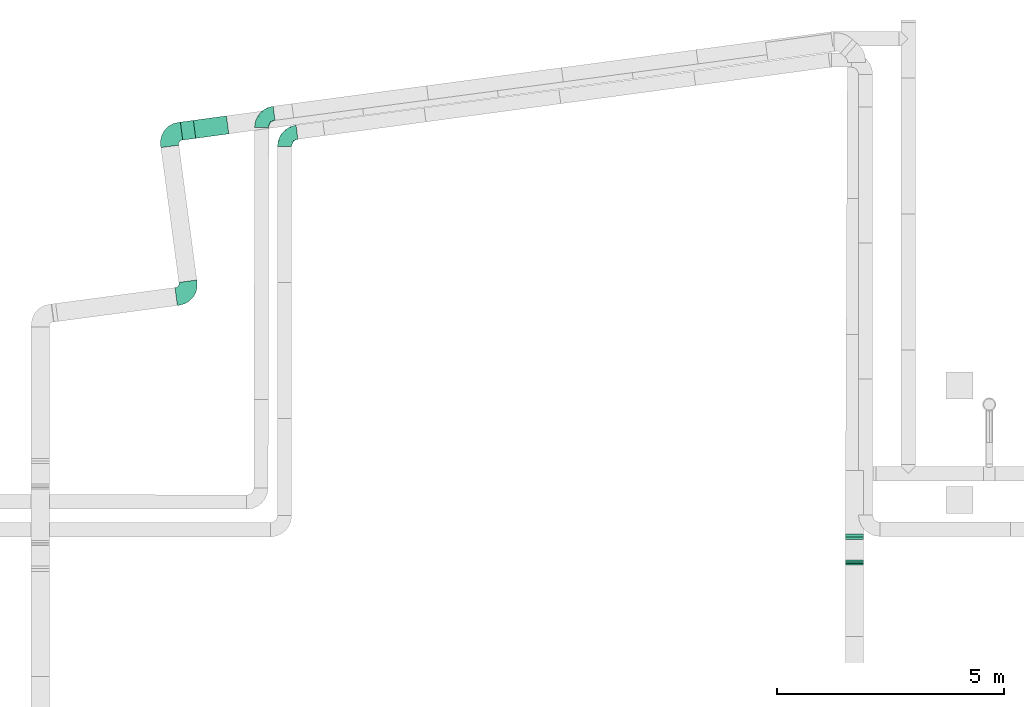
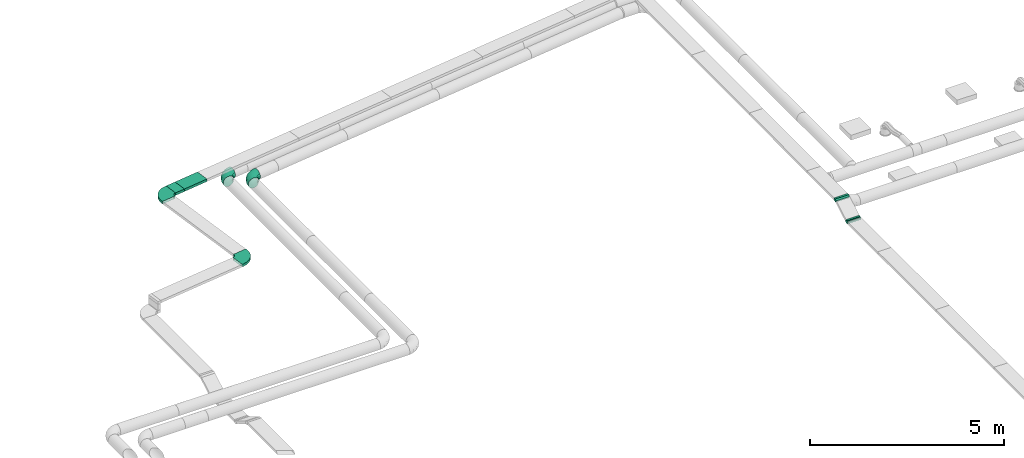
# One storey, part 15 of 119: 6 distribution elements, 2 flow fittings.
"""IFC2X3 building model written with IfcOpenShell, lengths in metres."""

from ifc_helpers import new_model, si_unit, direction, frame, frame_2d, origin, place, context, subcontext, project, spatial, rectangle, extrude, open_shell, surface_model, source, transform, mapped, element, save


model = new_model("IFC2X3")

# Units and contexts
model_context = context("Model", 3, precision=1e-05, world=origin(), true_north=direction((-0.4480736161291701, 0.8939966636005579)))
body_context = subcontext(model_context, "Body", "Model", "MODEL_VIEW")
ifc_project = project(units=[si_unit("LENGTHUNIT", "METRE"), si_unit("AREAUNIT", "SQUARE_METRE"), si_unit("VOLUMEUNIT", "CUBIC_METRE"), si_unit("PLANEANGLEUNIT", "RADIAN"), si_unit("THERMODYNAMICTEMPERATUREUNIT", "KELVIN"), si_unit("MASSUNIT", "GRAM", prefix="KILO"), si_unit("TIMEUNIT", "SECOND")], contexts=[model_context])

# Site, building, storey
site_placement = place(None, origin())
site = spatial("IfcSite", under=ifc_project, at=site_placement, Name="Site 1", CompositionType="ELEMENT")
building_placement = place(site_placement, origin())
building = spatial("IfcBuilding", under=site, at=building_placement, Name="Undefined", CompositionType="ELEMENT")
storey_placement = place(building_placement, frame((0.0, 0.0, 5.4)))
storey = spatial("IfcBuildingStorey", under=building, at=storey_placement, Name="R+1", CompositionType="ELEMENT", Elevation=5.4)

# Flow fittings
shared_shape_1 = source(origin(), body_context, "Body", "SurfaceModel", [
    surface_model("IfcFaceBasedSurfaceModel", [(0.13527406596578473, 8.8817842e-16, 0.0), (0.1345058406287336, 0.04110857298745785, 0.0), (0.0007682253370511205, 0.04110857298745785, 0.0), (0.0, 0.0, 0.0), (-0.12748852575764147, 0.046004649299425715, -0.037576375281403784), (-0.12973023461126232, 0.004952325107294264, -0.03800807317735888), (-0.23975192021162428, 0.05539549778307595, -0.10964919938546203), (-0.24328337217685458, 0.014451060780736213, -0.11090890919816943), (-0.3268203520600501, 0.06851140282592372, -0.21031106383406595), (-0.3313520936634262, 0.02771764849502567, -0.21272723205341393), (-0.381557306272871, 0.08427732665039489, -0.33131127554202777), (-0.38671789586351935, 0.043664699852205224, -0.3351175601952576), (0.1322535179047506, 0.0807881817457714, -0.010533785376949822), (0.003020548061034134, 0.08078818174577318, -0.010533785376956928), (-0.12091616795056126, 0.0855193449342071, -0.046844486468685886), (-0.22939822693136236, 0.09459388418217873, -0.11648970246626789), (-0.31353395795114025, 0.10726800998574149, -0.2137610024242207), (-0.36642722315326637, 0.12250289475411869, -0.330685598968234), (0.12867058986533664, 0.1163347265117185, -0.030883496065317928), (0.006603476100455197, 0.11633472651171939, -0.030883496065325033), (-0.11046105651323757, 0.12080355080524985, -0.06518080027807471), (-0.21292787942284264, 0.12937491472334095, -0.13096424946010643), (-0.292398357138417, 0.14134627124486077, -0.22284194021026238), (-0.3423587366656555, 0.1557363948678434, -0.33328316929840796), (0.12400122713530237, 0.14532576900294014, -0.059662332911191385), (0.01127283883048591, 0.14532576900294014, -0.059662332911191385), (-0.09683569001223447, 0.14945270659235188, -0.09133572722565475), (-0.19146330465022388, 0.15736831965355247, -0.1520864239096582), (-0.2648539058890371, 0.16842380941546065, -0.23693502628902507), (-0.31099207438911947, 0.1817130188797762, -0.33892696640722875), (0.11856363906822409, 0.16578561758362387, -0.09490906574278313), (0.016710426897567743, 0.16578561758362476, -0.09490906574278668), (-0.08096861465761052, 0.1695144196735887, -0.12352685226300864), (-0.16646727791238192, 0.17666639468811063, -0.1784167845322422), (-0.23277771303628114, 0.18665533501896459, -0.25507984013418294), (-0.2744648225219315, 0.19866250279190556, -0.34723237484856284), (0.11272838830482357, 0.17631996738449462, -0.1342216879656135), (0.022545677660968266, 0.17631996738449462, -0.1342216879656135), (-0.06394114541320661, 0.17962151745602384, -0.15956040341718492), (-0.13964323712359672, 0.18595400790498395, -0.2081609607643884), (-0.19835571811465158, 0.19479839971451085, -0.2760398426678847), (-0.23526625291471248, 0.2054297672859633, -0.3576333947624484), (0.10689313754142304, 0.17621091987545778, -0.1749211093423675), (0.02838092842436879, 0.17621091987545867, -0.17492110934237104), (-0.04691367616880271, 0.17908521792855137, -0.19698075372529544), (-0.11281919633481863, 0.18459822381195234, -0.2392919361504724), (-0.1639337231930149, 0.19229806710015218, -0.29838664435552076), (-0.19606768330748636, 0.2015536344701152, -0.36942121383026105), (0.10145554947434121, 0.16546590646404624, -0.21423373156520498), (0.033818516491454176, 0.16546590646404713, -0.21423373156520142), (-0.031046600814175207, 0.16794206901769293, -0.2332377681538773), (-0.08782316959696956, 0.17269143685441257, -0.26968818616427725), (-0.13185753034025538, 0.1793247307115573, -0.3205973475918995), (-0.15954043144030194, 0.18729825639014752, -0.38179251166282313), (0.09678618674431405, 0.144817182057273, -0.24948046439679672), (0.03848787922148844, 0.14481718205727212, -0.24948046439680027), (-0.017421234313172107, 0.1469514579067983, -0.2658605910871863), (-0.06635859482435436, 0.15104507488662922, -0.2972782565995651), (-0.1043130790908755, 0.1567625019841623, -0.3411583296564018), (-0.12817376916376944, 0.16363511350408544, -0.3939042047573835), (0.09320325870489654, 0.11567192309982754, -0.2782593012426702), (0.0420708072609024, 0.11567192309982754, -0.2782593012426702), (-0.006966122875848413, 0.11754386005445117, -0.292626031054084), (-0.04988824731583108, 0.12113430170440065, -0.3201819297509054), (-0.0831774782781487, 0.1261489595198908, -0.3586683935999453), (-0.10410528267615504, 0.13217680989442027, -0.4049309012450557), (0.09095093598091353, 0.0800163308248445, -0.29860901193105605), (0.04432312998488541, 0.0800163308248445, -0.29860901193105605), (-0.0003937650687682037, 0.08172335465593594, -0.31171006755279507), (-0.03953455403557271, 0.08499748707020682, -0.33683835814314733), (-0.06989108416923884, 0.08957036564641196, -0.37193425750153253), (-0.08897519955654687, 0.09506717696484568, -0.414121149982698), (0.09018271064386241, 0.04028027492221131, -0.3091427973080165), (0.04509135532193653, 0.04028027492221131, -0.309142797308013), (0.0018479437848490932, 0.04193104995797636, -0.321812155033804), (-0.03600310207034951, 0.04509729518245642, -0.3461124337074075), (-0.06535934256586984, 0.04951949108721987, -0.38005187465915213), (-0.08381460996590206, 0.05483517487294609, -0.42084865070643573), (0.09095093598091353, -0.0008282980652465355, -0.3091427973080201), (0.04432312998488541, -0.0008282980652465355, -0.3091427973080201), (-0.0003937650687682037, 0.0008787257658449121, -0.3222438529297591), (-0.03953455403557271, 0.004152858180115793, -0.34737214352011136), (-0.06989108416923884, 0.008725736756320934, -0.38246804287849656), (-0.08897519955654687, 0.014222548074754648, -0.42465493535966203), (0.09320325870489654, -0.04050790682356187, -0.29860901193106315), (0.0420708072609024, -0.04050790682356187, -0.29860901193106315), (-0.006966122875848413, -0.03863596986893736, -0.312975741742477), (-0.04988824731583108, -0.035045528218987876, -0.3405316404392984), (-0.0831774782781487, -0.03003087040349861, -0.37901810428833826), (-0.10410528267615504, -0.024003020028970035, -0.4252806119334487), (0.09678618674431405, -0.07605445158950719, -0.2782593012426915), (0.03848787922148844, -0.07605445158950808, -0.27825930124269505), (-0.017421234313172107, -0.07392017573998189, -0.29463942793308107), (-0.06635859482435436, -0.06982655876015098, -0.32605709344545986), (-0.1043130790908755, -0.06410913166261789, -0.3699371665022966), (-0.12817376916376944, -0.05723652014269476, -0.4226830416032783), (0.10145554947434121, -0.10504549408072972, -0.2494804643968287), (0.033818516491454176, -0.10504549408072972, -0.24948046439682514), (-0.031046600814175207, -0.10256933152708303, -0.26848450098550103), (-0.08782316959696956, -0.09781996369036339, -0.30493491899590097), (-0.13185753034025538, -0.09118666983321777, -0.3558440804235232), (-0.15954043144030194, -0.08321314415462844, -0.41703924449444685), (0.10689313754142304, -0.12550534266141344, -0.2142337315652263), (0.02838092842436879, -0.12550534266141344, -0.21423373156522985), (-0.04691367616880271, -0.12263104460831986, -0.23629337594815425), (-0.11281919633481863, -0.11711803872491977, -0.2786045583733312), (-0.1639337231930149, -0.10941819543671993, -0.33769926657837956), (-0.19606768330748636, -0.10016262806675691, -0.40873383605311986), (0.11272838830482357, -0.1360396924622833, -0.17492110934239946), (0.022545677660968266, -0.1360396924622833, -0.17492110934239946), (-0.06394114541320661, -0.1327381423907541, -0.20025982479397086), (-0.13964323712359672, -0.12640565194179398, -0.24886038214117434), (-0.19835571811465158, -0.11756126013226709, -0.3167392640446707), (-0.23526625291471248, -0.10692989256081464, -0.3983328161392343), (0.11856363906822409, -0.13593064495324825, -0.13422168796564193), (0.016710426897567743, -0.13593064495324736, -0.1342216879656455), (-0.08096861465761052, -0.13220184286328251, -0.16283947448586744), (-0.16646727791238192, -0.1250498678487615, -0.217729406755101), (-0.23277771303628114, -0.11506092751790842, -0.29439246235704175), (-0.2744648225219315, -0.10305375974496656, -0.38654499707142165), (0.12400122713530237, -0.12518563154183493, -0.0949090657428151), (0.01127283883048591, -0.12518563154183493, -0.0949090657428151), (-0.09683569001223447, -0.12105869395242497, -0.12658246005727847), (-0.19146330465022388, -0.11314308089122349, -0.18733315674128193), (-0.2648539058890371, -0.10208759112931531, -0.2721817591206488), (-0.31099207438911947, -0.08879838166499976, -0.37417369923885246), (0.12867058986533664, -0.1045369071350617, -0.0596623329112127), (0.006603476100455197, -0.10453690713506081, -0.059662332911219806), (-0.11046105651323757, -0.10006808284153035, -0.09395963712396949), (-0.21292787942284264, -0.09149671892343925, -0.1597430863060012), (-0.292398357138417, -0.07952536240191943, -0.25162077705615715), (-0.3423587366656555, -0.06513523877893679, -0.36206200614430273), (0.1322535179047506, -0.07539164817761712, -0.030883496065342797), (0.003020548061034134, -0.07539164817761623, -0.030883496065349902), (-0.12091616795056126, -0.07066048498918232, -0.06719419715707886), (-0.22939822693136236, -0.06158594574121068, -0.13683941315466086), (-0.31353395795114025, -0.04891181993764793, -0.23411071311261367), (-0.36642722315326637, -0.03367693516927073, -0.351035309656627), (0.1345058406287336, -0.03973605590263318, -0.010533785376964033), (0.0007682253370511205, -0.03973605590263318, -0.010533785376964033), (-0.12748852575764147, -0.034839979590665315, -0.04811016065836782), (-0.23975192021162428, -0.025449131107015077, -0.12018298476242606), (-0.3268203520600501, -0.012333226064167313, -0.22084484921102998), (-0.381557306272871, 0.00343269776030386, -0.3418450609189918)], [open_shell([[[0, 1, 2, 3]], [[3, 2, 4, 5]], [[5, 4, 6, 7]], [[7, 6, 8, 9]], [[9, 8, 10, 11]], [[1, 12, 13, 2]], [[2, 13, 14, 4]], [[4, 14, 15, 6]], [[6, 15, 16, 8]], [[8, 16, 17, 10]], [[12, 18, 19, 13]], [[13, 19, 20, 14]], [[14, 20, 21, 15]], [[15, 21, 22, 16]], [[16, 22, 23, 17]], [[18, 24, 25, 19]], [[19, 25, 26, 20]], [[20, 26, 27, 21]], [[21, 27, 28, 22]], [[22, 28, 29, 23]], [[24, 30, 31, 25]], [[25, 31, 32, 26]], [[26, 32, 33, 27]], [[27, 33, 34, 28]], [[28, 34, 35, 29]], [[30, 36, 37, 31]], [[31, 37, 38, 32]], [[32, 38, 39, 33]], [[33, 39, 40, 34]], [[34, 40, 41, 35]], [[36, 42, 43, 37]], [[37, 43, 44, 38]], [[38, 44, 45, 39]], [[39, 45, 46, 40]], [[40, 46, 47, 41]], [[42, 48, 49, 43]], [[43, 49, 50, 44]], [[44, 50, 51, 45]], [[45, 51, 52, 46]], [[46, 52, 53, 47]], [[48, 54, 55, 49]], [[49, 55, 56, 50]], [[50, 56, 57, 51]], [[51, 57, 58, 52]], [[52, 58, 59, 53]], [[54, 60, 61, 55]], [[55, 61, 62, 56]], [[56, 62, 63, 57]], [[57, 63, 64, 58]], [[58, 64, 65, 59]], [[60, 66, 67, 61]], [[61, 67, 68, 62]], [[62, 68, 69, 63]], [[63, 69, 70, 64]], [[64, 70, 71, 65]], [[66, 72, 73, 67]], [[67, 73, 74, 68]], [[68, 74, 75, 69]], [[69, 75, 76, 70]], [[70, 76, 77, 71]], [[72, 78, 79, 73]], [[73, 79, 80, 74]], [[74, 80, 81, 75]], [[75, 81, 82, 76]], [[76, 82, 83, 77]], [[78, 84, 85, 79]], [[79, 85, 86, 80]], [[80, 86, 87, 81]], [[81, 87, 88, 82]], [[82, 88, 89, 83]], [[84, 90, 91, 85]], [[85, 91, 92, 86]], [[86, 92, 93, 87]], [[87, 93, 94, 88]], [[88, 94, 95, 89]], [[90, 96, 97, 91]], [[91, 97, 98, 92]], [[92, 98, 99, 93]], [[93, 99, 100, 94]], [[94, 100, 101, 95]], [[96, 102, 103, 97]], [[97, 103, 104, 98]], [[98, 104, 105, 99]], [[99, 105, 106, 100]], [[100, 106, 107, 101]], [[102, 108, 109, 103]], [[103, 109, 110, 104]], [[104, 110, 111, 105]], [[105, 111, 112, 106]], [[106, 112, 113, 107]], [[108, 114, 115, 109]], [[109, 115, 116, 110]], [[110, 116, 117, 111]], [[111, 117, 118, 112]], [[112, 118, 119, 113]], [[114, 120, 121, 115]], [[115, 121, 122, 116]], [[116, 122, 123, 117]], [[117, 123, 124, 118]], [[118, 124, 125, 119]], [[120, 126, 127, 121]], [[121, 127, 128, 122]], [[122, 128, 129, 123]], [[123, 129, 130, 124]], [[124, 130, 131, 125]], [[126, 132, 133, 127]], [[127, 133, 134, 128]], [[128, 134, 135, 129]], [[129, 135, 136, 130]], [[130, 136, 137, 131]], [[132, 138, 139, 133]], [[133, 139, 140, 134]], [[134, 140, 141, 135]], [[135, 141, 142, 136]], [[136, 142, 143, 137]], [[138, 0, 3, 139]], [[139, 3, 5, 140]], [[140, 5, 7, 141]], [[141, 7, 9, 142]], [[142, 9, 11, 143]]])]),
])
flow_fitting_1_placement = place(storey_placement, origin())
element("IfcFlowFitting", 1, at=flow_fitting_1_placement, inside=storey, Name="Coude", ObjectType="Coude", context=body_context, shape_type="MappedRepresentation", body=[
    mapped(shared_shape_1, transform((14.871398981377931, 28.155384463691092, 2.775), x_axis=(0.9615977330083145, 0.2744627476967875, 0.0), y_axis=(0.03546182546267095, -0.12424276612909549, -0.9916179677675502), z_axis=(-0.27216219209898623, 0.9535375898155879, -0.12920451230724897))),
])
flow_fitting_2_placement = place(storey_placement, origin())
element("IfcFlowFitting", 2, at=flow_fitting_2_placement, inside=storey, Name="Coude", ObjectType="Coude", context=body_context, shape_type="MappedRepresentation", body=[
    mapped(shared_shape_1, transform((14.105996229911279, 28.275603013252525, 2.75), x_axis=(-0.14487429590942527, -0.9894500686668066, 0.0), y_axis=(0.12784141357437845, -0.018718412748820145, 0.9916179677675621), z_axis=(-0.9811564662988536, 0.14365995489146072, 0.1292045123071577))),
])

# Distribution elements
shared_shape_2 = source(origin(), body_context, "Body", "SurfaceModel", [
    surface_model("IfcFaceBasedSurfaceModel", [(0.0, 0.03928203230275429, 0.0), (0.0, 0.0, 0.0), (0.3999999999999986, 0.0, 1.776356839e-15), (0.3999999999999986, 0.03928203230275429, 1.776356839e-15), (0.0, -0.034019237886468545, -0.01964101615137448), (0.3999999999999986, -0.034019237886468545, -0.01964101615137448), (0.0, -0.07401923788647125, 0.04964101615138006), (0.0, -0.021435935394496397, 0.08000000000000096), (0.3999999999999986, -0.021435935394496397, 0.08000000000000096), (0.3999999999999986, -0.07401923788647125, 0.04964101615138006), (0.0, 0.03928203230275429, 0.08000000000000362), (0.3999999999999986, 0.03928203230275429, 0.08000000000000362)], [open_shell([[[0, 1, 2, 3]], [[1, 4, 5, 2]], [[6, 7, 8, 9]], [[7, 10, 11, 8]], [[2, 3, 11]], [[5, 2, 11]], [[9, 5, 11]], [[8, 9, 11]], [[10, 0, 1]], [[10, 1, 4]], [[10, 4, 6]], [[10, 6, 7]]])]),
])
distribution_element_1_placement = place(storey_placement, origin())
element("IfcDistributionElement", 3, at=distribution_element_1_placement, inside=storey, Name="Connecteur articulé vertical Descendant", ObjectType="Connecteur articulé vertical Descendant", context=body_context, shape_type="MappedRepresentation", body=[
    mapped(shared_shape_2, transform((27.51724799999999, 18.526582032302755, 2.83), x_axis=(-1.0, 0.0, 0.0), y_axis=(0.0, 0.8660254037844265, 0.5000000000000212), z_axis=(-9.61481343e-16, 0.499999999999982, -0.866025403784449))),
])
distribution_element_2_placement = place(storey_placement, origin())
element("IfcDistributionElement", 4, at=distribution_element_2_placement, inside=storey, Name="Connecteur articulé vertical Descendant", ObjectType="Connecteur articulé vertical Descendant", context=body_context, shape_type="MappedRepresentation", body=[
    mapped(shared_shape_2, transform((27.51724799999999, 19.128254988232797, 3.0849999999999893), x_axis=(-1.0, 0.0, 0.0), y_axis=(-5.55111512e-16, -0.866025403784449, -0.499999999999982), z_axis=(9.61481343e-16, -0.49999999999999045, 0.866025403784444))),
])
shared_shape_3 = source(origin(), body_context, "Body", "SurfaceModel", [
    surface_model("IfcFaceBasedSurfaceModel", [(0.0, 0.049999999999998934, 0.0), (0.0, 0.0, 0.0), (0.08000000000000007, 0.0, 5.82867088e-16), (0.08000000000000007, 0.04999999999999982, 0.0), (0.0, -0.05000000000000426, -0.049999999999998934), (0.07999999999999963, -0.05000000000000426, -0.049999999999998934), (0.0, -0.05000000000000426, -0.09999999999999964), (0.07999999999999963, -0.05000000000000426, -0.09999999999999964), (0.0, -0.45000000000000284, -0.09999999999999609), (0.0, -0.4499999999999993, -0.04999999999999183), (0.07999999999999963, -0.4499999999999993, -0.04999999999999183), (0.07999999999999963, -0.45000000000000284, -0.09999999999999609), (0.07999999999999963, -0.43466662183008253, 0.06646857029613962), (0.0, -0.43466662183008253, 0.06646857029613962), (0.07999999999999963, -0.3897114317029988, 0.17500000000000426), (0.0, -0.3897114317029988, 0.17500000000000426), (0.0800000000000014, -0.318198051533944, 0.26819805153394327), (1.33226763e-15, -0.31819805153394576, 0.26819805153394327), (0.08000000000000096, -0.22499999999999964, 0.33971143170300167), (8.8817842e-16, -0.22499999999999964, 0.33971143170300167), (0.08000000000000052, -0.11646857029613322, 0.38466662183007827), (4.4408921e-16, -0.11646857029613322, 0.38466662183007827), (0.08000000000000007, 0.0, 0.3999999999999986), (0.0, 0.0, 0.3999999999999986), (-4.4408921e-16, 0.05000000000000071, 0.3999999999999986), (0.07999999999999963, 0.05000000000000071, 0.3999999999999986)], [open_shell([[[0, 1, 2, 3]], [[1, 4, 5, 2]], [[4, 6, 7, 5]], [[8, 9, 10, 11]], [[10, 12, 13, 9]], [[12, 14, 15, 13]], [[14, 16, 17, 15]], [[16, 18, 19, 17]], [[18, 20, 21, 19]], [[20, 22, 23, 21]], [[23, 24, 25, 22]], [[11, 18, 16]], [[18, 11, 20]], [[5, 20, 11]], [[20, 5, 22]], [[2, 22, 5]], [[22, 2, 25]], [[3, 25, 2]], [[12, 10, 11]], [[14, 12, 11]], [[16, 14, 11]], [[7, 5, 11]], [[17, 19, 8]], [[21, 8, 19]], [[8, 21, 4]], [[23, 4, 21]], [[4, 23, 1]], [[24, 1, 23]], [[1, 24, 0]], [[8, 9, 13]], [[8, 13, 15]], [[8, 15, 17]], [[8, 4, 6]]])]),
])
distribution_element_3_placement = place(storey_placement, origin())
element("IfcDistributionElement", 5, at=distribution_element_3_placement, inside=storey, Name="Coude", ObjectType="Coude", context=body_context, shape_type="MappedRepresentation", body=[
    mapped(shared_shape_3, transform((12.410747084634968, 27.79872777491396, 3.164999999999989), x_axis=(0.0, 0.0, -1.0), y_axis=(0.13225629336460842, -0.9912155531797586, 0.0), z_axis=(-0.9912155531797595, -0.132256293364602, 0.0))),
])
distribution_element_4_placement = place(storey_placement, origin())
element("IfcDistributionElement", 6, at=distribution_element_4_placement, inside=storey, Name="Coude", ObjectType="Coude", context=body_context, shape_type="MappedRepresentation", body=[
    mapped(shared_shape_3, transform((12.42425537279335, 24.673057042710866, 3.164999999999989), x_axis=(0.0, 0.0, -1.0), y_axis=(-0.132256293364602, 0.9912155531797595, 0.0), z_axis=(0.9912155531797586, 0.13225629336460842, 0.0))),
])
distribution_element_5_placement = place(storey_placement, origin())
element("IfcDistributionElement", 7, at=distribution_element_5_placement, inside=storey, Name="Chemin(s) de câbles", ObjectType="Chemin(s) de câbles", context=body_context, shape_type="SweptSolid", body=[
    extrude(rectangle(XDim=0.4, YDim=0.08, at=frame_2d((3.552713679e-15, 0.0), x_axis=(-1.0, 0.0))), frame((13.493209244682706, 28.19728140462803, 3.1249999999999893), z_axis=(-0.9908724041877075, -0.13480311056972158, 0.0), x_axis=(0.13480311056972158, -0.9908724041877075, 0.0)), (0.0, 0.0, 1.0), 0.7355057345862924),
])
distribution_element_6_placement = place(storey_placement, origin())
element("IfcDistributionElement", 8, at=distribution_element_6_placement, inside=storey, Name="Chemin(s) de câbles", ObjectType="Chemin(s) de câbles", context=body_context, shape_type="SweptSolid", body=[
    extrude(rectangle(XDim=0.4, YDim=0.08, at=frame_2d((3.552713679e-15, 0.0), x_axis=(-1.0, 0.0))), frame((12.476804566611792, 28.05975729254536, 3.1249999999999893), z_axis=(0.9912155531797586, 0.13225629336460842, 0.0), x_axis=(0.13225629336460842, -0.9912155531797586, 0.0)), (0.0, 0.0, 1.0), 0.2901612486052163),
])

save(model, "model.ifc")
